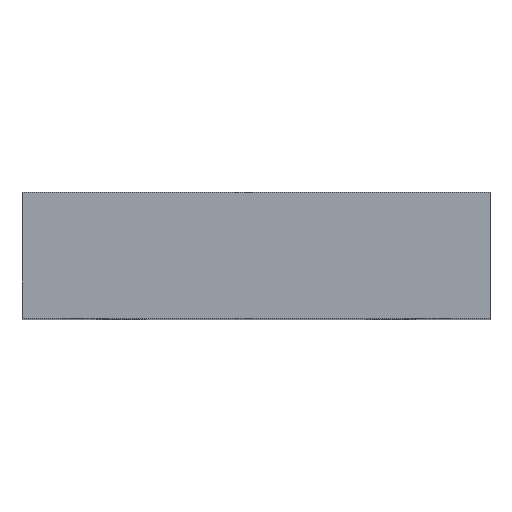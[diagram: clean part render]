
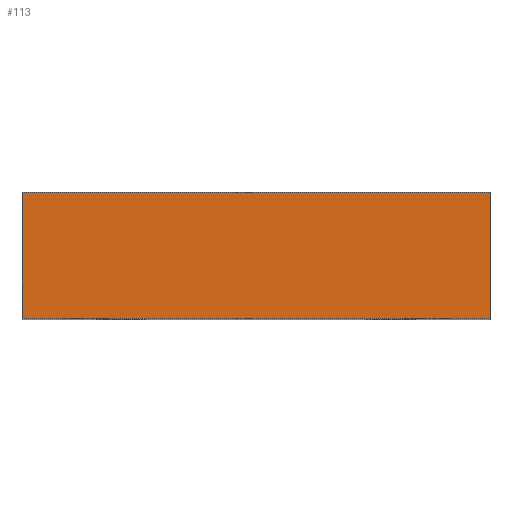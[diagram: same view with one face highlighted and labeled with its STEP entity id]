
A CAD part, top view. The second image highlights one B-rep face of the part: STEP entity #113.
In plain terms, the highlighted planar face has unit normal (0, 0, 1).
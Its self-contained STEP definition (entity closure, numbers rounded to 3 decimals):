
#12 = DIRECTION ( 'NONE',  ( 0., -1., 0. ) ) ;
#113 = ADVANCED_FACE ( 'NONE', ( #331 ), #290, .F. ) ;
#124 = VECTOR ( 'NONE', #1138, 1000. ) ;
#128 = AXIS2_PLACEMENT_3D ( 'NONE', #617, #625, #1228 ) ;
#180 = CARTESIAN_POINT ( 'NONE',  ( 26., 0., 45. ) ) ;
#181 = VECTOR ( 'NONE', #422, 1000. ) ;
#248 = LINE ( 'NONE', #1322, #1087 ) ;
#259 = LINE ( 'NONE', #507, #124 ) ;
#275 = LINE ( 'NONE', #834, #735 ) ;
#290 = PLANE ( 'NONE',  #128 ) ;
#331 = FACE_OUTER_BOUND ( 'NONE', #750, .T. ) ;
#342 = EDGE_CURVE ( 'NONE', #1115, #966, #259, .T. ) ;
#395 = ORIENTED_EDGE ( 'NONE', *, *, #754, .F. ) ;
#422 = DIRECTION ( 'NONE',  ( -1., 0., 0. ) ) ;
#436 = ORIENTED_EDGE ( 'NONE', *, *, #536, .T. ) ;
#454 = CARTESIAN_POINT ( 'NONE',  ( 26., 14., 45. ) ) ;
#455 = VERTEX_POINT ( 'NONE', #1009 ) ;
#507 = CARTESIAN_POINT ( 'NONE',  ( 26., 0., 45. ) ) ;
#536 = EDGE_CURVE ( 'NONE', #1042, #966, #248, .T. ) ;
#546 = LINE ( 'NONE', #454, #181 ) ;
#617 = CARTESIAN_POINT ( 'NONE',  ( 26., 14., 45. ) ) ;
#625 = DIRECTION ( 'NONE',  ( 0., 0., -1. ) ) ;
#656 = EDGE_CURVE ( 'NONE', #455, #1042, #546, .T. ) ;
#681 = CARTESIAN_POINT ( 'NONE',  ( -26., 0., 45. ) ) ;
#735 = VECTOR ( 'NONE', #823, 1000. ) ;
#750 = EDGE_LOOP ( 'NONE', ( #436, #1076, #395, #1270 ) ) ;
#754 = EDGE_CURVE ( 'NONE', #455, #1115, #275, .T. ) ;
#817 = CARTESIAN_POINT ( 'NONE',  ( -26., 14., 45. ) ) ;
#823 = DIRECTION ( 'NONE',  ( 0., -1., 0. ) ) ;
#834 = CARTESIAN_POINT ( 'NONE',  ( 26., 14., 45. ) ) ;
#966 = VERTEX_POINT ( 'NONE', #681 ) ;
#1009 = CARTESIAN_POINT ( 'NONE',  ( 26., 14., 45. ) ) ;
#1042 = VERTEX_POINT ( 'NONE', #817 ) ;
#1076 = ORIENTED_EDGE ( 'NONE', *, *, #342, .F. ) ;
#1087 = VECTOR ( 'NONE', #12, 1000. ) ;
#1115 = VERTEX_POINT ( 'NONE', #180 ) ;
#1138 = DIRECTION ( 'NONE',  ( -1., 0., 0. ) ) ;
#1228 = DIRECTION ( 'NONE',  ( -1., 0., 0. ) ) ;
#1270 = ORIENTED_EDGE ( 'NONE', *, *, #656, .T. ) ;
#1322 = CARTESIAN_POINT ( 'NONE',  ( -26., 14., 45. ) ) ;
